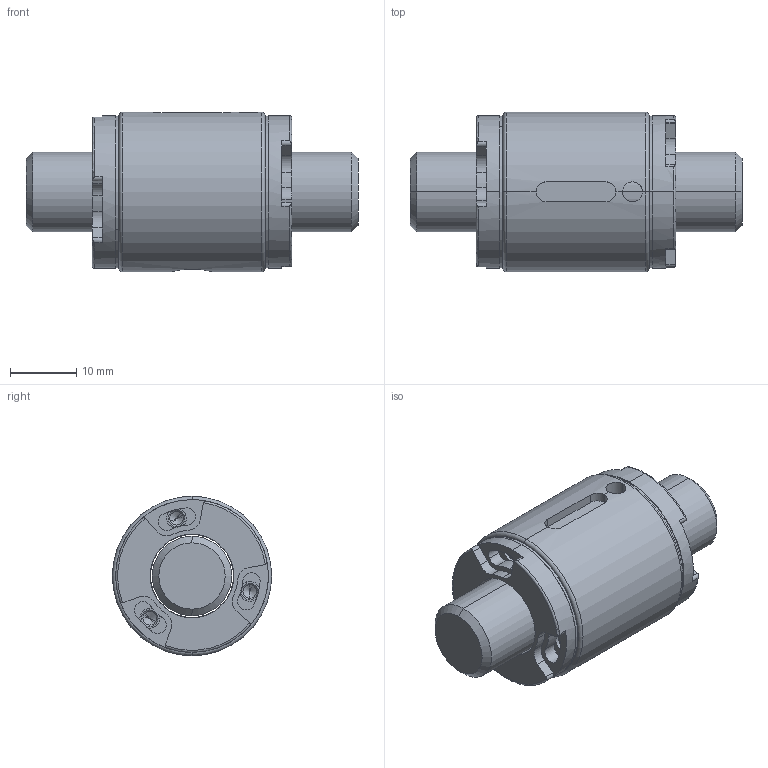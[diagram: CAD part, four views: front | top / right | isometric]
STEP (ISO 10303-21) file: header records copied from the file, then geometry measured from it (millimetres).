
FILE_DESCRIPTION (( 'STEP AP203' ), '1' );
FILE_NAME ('SCHR01205B1-C.STEP', '2020-06-17T08:40:51', ( '' ), ( '' ), 'SwSTEP 2.0', 'SolidWorks 2013', '' );
FILE_SCHEMA (( 'CONFIG_CONTROL_DESIGN' ));
Length unit declared in the file: millimetre
Products named in the file (1): SCHR01205B1-C
Bounding box: 50 x 24 x 24 mm (x, y, z)
Volume: 14156.4 mm3; surface area: 6750.2 mm2
Topology: 2 solids, 2 shells, 217 faces, 548 edges, 341 vertices
Faces by surface type: cylinder 115, plane 64, cone 28, torus 10
Entity records: 6854 total; most frequent: CARTESIAN_POINT 1373, DIRECTION 1269, ORIENTED_EDGE 1072, AXIS2_PLACEMENT_3D 537, EDGE_CURVE 536, VERTEX_POINT 341, CIRCLE 319, EDGE_LOOP 239
